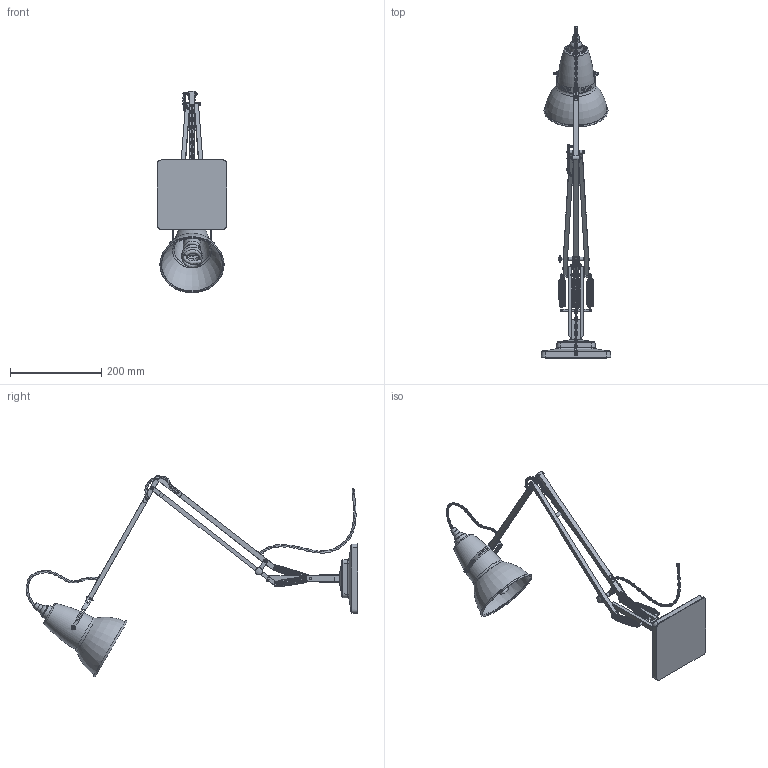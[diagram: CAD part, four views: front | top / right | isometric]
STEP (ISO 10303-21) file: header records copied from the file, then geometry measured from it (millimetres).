
FILE_DESCRIPTION (( 'STEP AP214' ), '1' );
FILE_NAME ('Original1227_Brass_Desk_Lamp_STEP_01.STEP', '2014-10-31T15:21:32', ( '' ), ( '' ), 'SwSTEP 2.0', 'SolidWorks 2014', '' );
FILE_SCHEMA (( 'AUTOMOTIVE_DESIGN' ));
Length unit declared in the file: millimetre
Products named in the file (1): Original1227_Brass_Desk_Lamp_STEP_01
Bounding box: 151.5 x 726.12 x 440.72 mm (x, y, z)
Volume: 878400.6 mm3; surface area: 286088.8 mm2
Topology: 1 solids, 1 shells, 1842 faces, 4477 edges, 2718 vertices
Faces by surface type: plane 778, cylinder 763, bspline 196, torus 60, sphere 44, cone 1
Full cylindrical faces by diameter (mm): 1.1 x1, 2.208 x1, 2.583 x1, 2.8 x6, 3 x8, 3.3 x2, 4 x2, 5 x14, 5.8 x1, 6 x4, 6.304 x2, 7 x8, 8 x10, 9 x5, 9.6 x1, 10 x2, 11 x1, 13.335 x2, 15 x1, 25 x1, 28.575 x1, 30 x1, 37.5 x1, 38.1 x1, 135 x1
Entity records: 107833 total; most frequent: CARTESIAN_POINT 65882, DIRECTION 8478, ORIENTED_EDGE 8412, EDGE_CURVE 4206, AXIS2_PLACEMENT_3D 3314, VERTEX_POINT 2645, EDGE_LOOP 2175, FACE_OUTER_BOUND 2011
